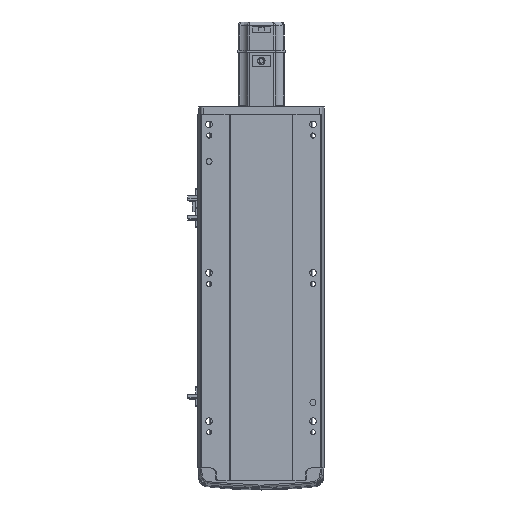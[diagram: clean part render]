
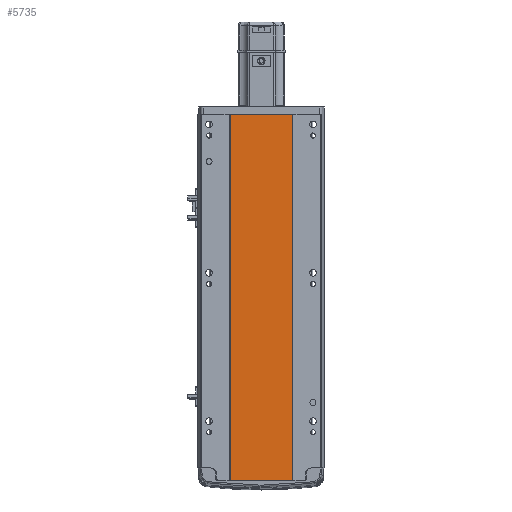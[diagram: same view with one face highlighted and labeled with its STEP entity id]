
A CAD part, front view. The second image highlights one B-rep face of the part: STEP entity #5735.
In plain terms, the highlighted planar face has unit normal (0, -1, 0).
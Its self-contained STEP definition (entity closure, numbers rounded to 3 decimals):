
#536 = PLANE ( 'NONE',  #21001 ) ;
#3621 = CARTESIAN_POINT ( 'NONE',  ( 0., 0.999, 493.5 ) ) ;
#3916 = CARTESIAN_POINT ( 'NONE',  ( -41.791, 1., 493.5 ) ) ;
#4751 = VECTOR ( 'NONE', #17394, 1000. ) ;
#5539 = CARTESIAN_POINT ( 'NONE',  ( 41.793, 0.998, 493.5 ) ) ;
#5735 = ADVANCED_FACE ( 'NONE', ( #39766 ), #536, .F. ) ;
#8716 = LINE ( 'NONE', #36294, #13345 ) ;
#10941 = DIRECTION ( 'NONE',  ( 0., 0., -1. ) ) ;
#13345 = VECTOR ( 'NONE', #14233, 1000. ) ;
#13384 = CARTESIAN_POINT ( 'NONE',  ( -41.791, 1., 493.5 ) ) ;
#13688 = CARTESIAN_POINT ( 'NONE',  ( 41.793, 0.998, 493.5 ) ) ;
#14233 = DIRECTION ( 'NONE',  ( 1., 0., 0. ) ) ;
#14537 = EDGE_CURVE ( 'NONE', #20631, #25890, #45483, .T. ) ;
#17394 = DIRECTION ( 'NONE',  ( 0., 0., -1. ) ) ;
#17491 = CARTESIAN_POINT ( 'NONE',  ( 0., 0.999, 493.5 ) ) ;
#17701 = EDGE_LOOP ( 'NONE', ( #36245, #47540, #28246, #32122 ) ) ;
#20631 = VERTEX_POINT ( 'NONE', #3916 ) ;
#21001 = AXIS2_PLACEMENT_3D ( 'NONE', #3621, #44447, #29786 ) ;
#21763 = CARTESIAN_POINT ( 'NONE',  ( 41.793, 0.998, 0. ) ) ;
#24299 = LINE ( 'NONE', #13688, #4751 ) ;
#25890 = VERTEX_POINT ( 'NONE', #5539 ) ;
#26483 = EDGE_CURVE ( 'NONE', #20631, #42050, #36659, .T. ) ;
#28246 = ORIENTED_EDGE ( 'NONE', *, *, #14537, .F. ) ;
#29786 = DIRECTION ( 'NONE',  ( -1., 0., 0. ) ) ;
#32122 = ORIENTED_EDGE ( 'NONE', *, *, #26483, .T. ) ;
#32568 = DIRECTION ( 'NONE',  ( 1., 0., 0. ) ) ;
#34010 = VECTOR ( 'NONE', #32568, 1000. ) ;
#35495 = VECTOR ( 'NONE', #10941, 1000. ) ;
#36245 = ORIENTED_EDGE ( 'NONE', *, *, #43026, .T. ) ;
#36294 = CARTESIAN_POINT ( 'NONE',  ( 0., 0.999, 0. ) ) ;
#36659 = LINE ( 'NONE', #13384, #35495 ) ;
#39766 = FACE_OUTER_BOUND ( 'NONE', #17701, .T. ) ;
#39835 = CARTESIAN_POINT ( 'NONE',  ( -41.791, 1., 0. ) ) ;
#40672 = VERTEX_POINT ( 'NONE', #21763 ) ;
#42050 = VERTEX_POINT ( 'NONE', #39835 ) ;
#42557 = EDGE_CURVE ( 'NONE', #25890, #40672, #24299, .T. ) ;
#43026 = EDGE_CURVE ( 'NONE', #42050, #40672, #8716, .T. ) ;
#44447 = DIRECTION ( 'NONE',  ( 0., 1., 0. ) ) ;
#45483 = LINE ( 'NONE', #17491, #34010 ) ;
#47540 = ORIENTED_EDGE ( 'NONE', *, *, #42557, .F. ) ;
